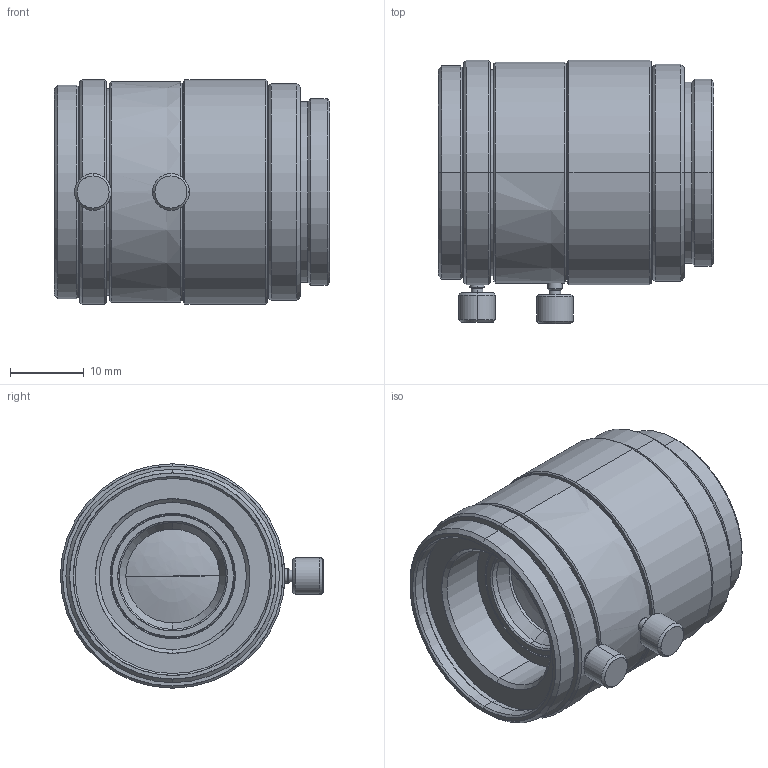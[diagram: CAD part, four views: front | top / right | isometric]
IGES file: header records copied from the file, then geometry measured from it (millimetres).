
Start section: SolidWorks IGES file using analytic representation for surfaces
Global section: file name: C:\Users\tsuji_vst\Documents\【図面】\_3D\00 VST\VS-LDA(APL)\VS-LDA25.IGS; native system: SolidWorks 2016; preprocessor: SolidWorks 2016; author: tsuji_vst; date: 160927.091437; units: millimetre
Bounding box: 37.48 x 35.75 x 30.5 mm (x, y, z)
Surface area: 7073.9 mm2 (no closed solid volume)
Topology: 0 solids, 0 shells, 144 faces, 2412 edges, 2410 vertices
Faces by surface type: revolution 122, bspline 22
